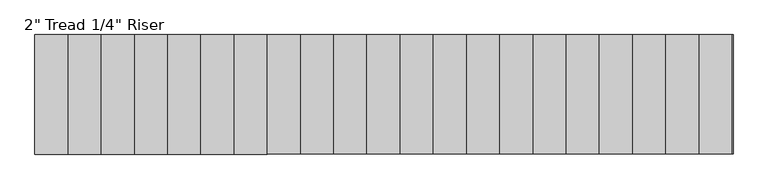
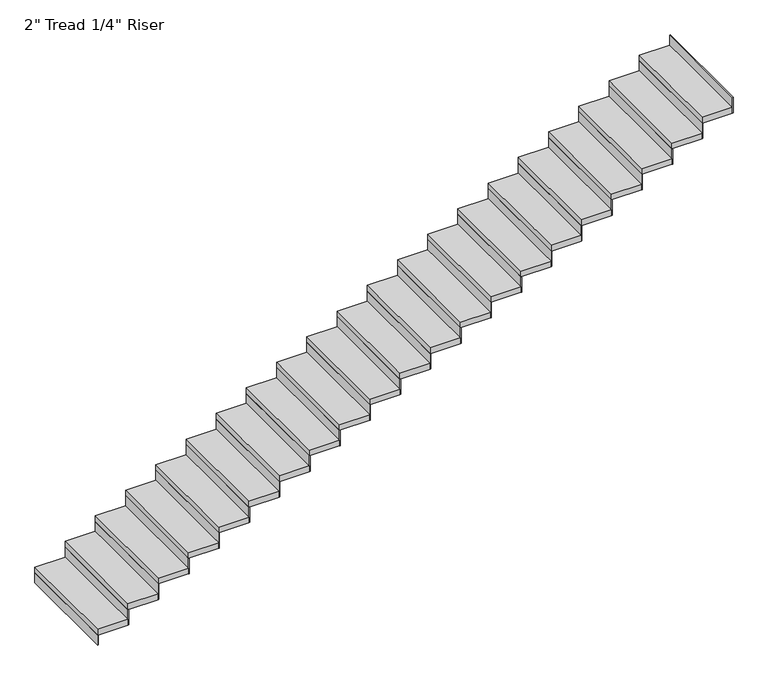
"""IFC4 building model written with IfcOpenShell, lengths in millimetres: stair flight geometry."""

from ifc_helpers import new_model, si_unit, frame, origin, origin_with_axes, place, context, project, spatial, polyline, outline, extrude, source, transform, mapped, element, save


def stair_flight_032d6450(model_context):
    return source(origin(), model_context, "Body", "SweptSolid", [
        extrude(outline(polyline([(10185.2072927, -35593.481782), (10178.8572927, -35593.481782), (10178.8572927, -34679.081782), (10185.2072927, -34679.081782), (10185.2072927, -35593.481782)])), origin_with_axes(), (0.0, 0.0, 1.0), 87.7454545),
        extrude(outline(polyline([(10432.8572927, -34679.081782), (10432.8572927, -35593.481782), (10178.8572927, -35593.481782), (10178.8572927, -34679.081782), (10432.8572927, -34679.081782)])), frame((0.0, 0.0, 87.7454545), z_axis=(0.0, 0.0, 1.0), x_axis=(1.0, 0.0, 0.0)), (0.0, 0.0, 1.0), 50.8),
        extrude(outline(polyline([(10439.2072927, -35593.481782), (10432.8572927, -35593.481782), (10432.8572927, -34679.081782), (10439.2072927, -34679.081782), (10439.2072927, -35593.481782)])), frame((0.0, 0.0, 87.7454545), z_axis=(0.0, 0.0, 1.0), x_axis=(1.0, 0.0, 0.0)), (0.0, 0.0, 1.0), 138.5454545),
        extrude(outline(polyline([(10686.8572927, -34679.081782), (10686.8572927, -35593.481782), (10432.8572927, -35593.481782), (10432.8572927, -34679.081782), (10686.8572927, -34679.081782)])), frame((0.0, 0.0, 226.2909091), z_axis=(0.0, 0.0, 1.0), x_axis=(1.0, 0.0, 0.0)), (0.0, 0.0, 1.0), 50.8),
        extrude(outline(polyline([(10693.2072927, -35593.481782), (10686.8572927, -35593.481782), (10686.8572927, -34679.081782), (10693.2072927, -34679.081782), (10693.2072927, -35593.481782)])), frame((0.0, 0.0, 226.2909091), z_axis=(0.0, 0.0, 1.0), x_axis=(1.0, 0.0, 0.0)), (0.0, 0.0, 1.0), 138.5454545),
        extrude(outline(polyline([(10940.8572927, -34679.081782), (10940.8572927, -35593.481782), (10686.8572927, -35593.481782), (10686.8572927, -34679.081782), (10940.8572927, -34679.081782)])), frame((0.0, 0.0, 364.8363636), z_axis=(0.0, 0.0, 1.0), x_axis=(1.0, 0.0, 0.0)), (0.0, 0.0, 1.0), 50.8),
        extrude(outline(polyline([(10947.2072927, -35593.481782), (10940.8572927, -35593.481782), (10940.8572927, -34679.081782), (10947.2072927, -34679.081782), (10947.2072927, -35593.481782)])), frame((0.0, 0.0, 364.8363636), z_axis=(0.0, 0.0, 1.0), x_axis=(1.0, 0.0, 0.0)), (0.0, 0.0, 1.0), 138.5454545),
        extrude(outline(polyline([(11194.8572927, -34679.081782), (11194.8572927, -35593.481782), (10940.8572927, -35593.481782), (10940.8572927, -34679.081782), (11194.8572927, -34679.081782)])), frame((0.0, 0.0, 503.3818182), z_axis=(0.0, 0.0, 1.0), x_axis=(1.0, 0.0, 0.0)), (0.0, 0.0, 1.0), 50.8),
        extrude(outline(polyline([(11201.2072927, -35593.481782), (11194.8572927, -35593.481782), (11194.8572927, -34679.081782), (11201.2072927, -34679.081782), (11201.2072927, -35593.481782)])), frame((0.0, 0.0, 503.3818182), z_axis=(0.0, 0.0, 1.0), x_axis=(1.0, 0.0, 0.0)), (0.0, 0.0, 1.0), 138.5454545),
        extrude(outline(polyline([(11448.8572927, -34679.081782), (11448.8572927, -35593.481782), (11194.8572927, -35593.481782), (11194.8572927, -34679.081782), (11448.8572927, -34679.081782)])), frame((0.0, 0.0, 641.9272727), z_axis=(0.0, 0.0, 1.0), x_axis=(1.0, 0.0, 0.0)), (0.0, 0.0, 1.0), 50.8),
        extrude(outline(polyline([(11455.2072927, -35593.481782), (11448.8572927, -35593.481782), (11448.8572927, -34679.081782), (11455.2072927, -34679.081782), (11455.2072927, -35593.481782)])), frame((0.0, 0.0, 641.9272727), z_axis=(0.0, 0.0, 1.0), x_axis=(1.0, 0.0, 0.0)), (0.0, 0.0, 1.0), 138.5454545),
        extrude(outline(polyline([(11702.8572927, -34679.081782), (11702.8572927, -35593.481782), (11448.8572927, -35593.481782), (11448.8572927, -34679.081782), (11702.8572927, -34679.081782)])), frame((0.0, 0.0, 780.4727273), z_axis=(0.0, 0.0, 1.0), x_axis=(1.0, 0.0, 0.0)), (0.0, 0.0, 1.0), 50.8),
        extrude(outline(polyline([(11709.2072927, -35593.481782), (11702.8572927, -35593.481782), (11702.8572927, -34679.081782), (11709.2072927, -34679.081782), (11709.2072927, -35593.481782)])), frame((0.0, 0.0, 780.4727273), z_axis=(0.0, 0.0, 1.0), x_axis=(1.0, 0.0, 0.0)), (0.0, 0.0, 1.0), 138.5454545),
        extrude(outline(polyline([(11956.8572927, -34679.081782), (11956.8572927, -35593.481782), (11702.8572927, -35593.481782), (11702.8572927, -34679.081782), (11956.8572927, -34679.081782)])), frame((0.0, 0.0, 919.0181818), z_axis=(0.0, 0.0, 1.0), x_axis=(1.0, 0.0, 0.0)), (0.0, 0.0, 1.0), 50.8),
        extrude(outline(polyline([(11963.2072927, -35593.481782), (11956.8572927, -35593.481782), (11956.8572927, -34679.081782), (11963.2072927, -34679.081782), (11963.2072927, -35593.481782)])), frame((0.0, 0.0, 919.0181818), z_axis=(0.0, 0.0, 1.0), x_axis=(1.0, 0.0, 0.0)), (0.0, 0.0, 1.0), 138.5454545),
        extrude(outline(polyline([(12210.8572927, -34679.081782), (12210.8572927, -35593.481782), (11956.8572927, -35593.481782), (11956.8572927, -34679.081782), (12210.8572927, -34679.081782)])), frame((0.0, 0.0, 1057.5636364), z_axis=(0.0, 0.0, 1.0), x_axis=(1.0, 0.0, 0.0)), (0.0, 0.0, 1.0), 50.8),
        extrude(outline(polyline([(12217.2072927, -35593.481782), (12210.8572927, -35593.481782), (12210.8572927, -34679.081782), (12217.2072927, -34679.081782), (12217.2072927, -35593.481782)])), frame((0.0, 0.0, 1057.5636364), z_axis=(0.0, 0.0, 1.0), x_axis=(1.0, 0.0, 0.0)), (0.0, 0.0, 1.0), 138.5454545),
        extrude(outline(polyline([(12464.8572927, -34679.081782), (12464.8572927, -35593.481782), (12210.8572927, -35593.481782), (12210.8572927, -34679.081782), (12464.8572927, -34679.081782)])), frame((0.0, 0.0, 1196.1090909), z_axis=(0.0, 0.0, 1.0), x_axis=(1.0, 0.0, 0.0)), (0.0, 0.0, 1.0), 50.8),
        extrude(outline(polyline([(12471.2072927, -35593.481782), (12464.8572927, -35593.481782), (12464.8572927, -34679.081782), (12471.2072927, -34679.081782), (12471.2072927, -35593.481782)])), frame((0.0, 0.0, 1196.1090909), z_axis=(0.0, 0.0, 1.0), x_axis=(1.0, 0.0, 0.0)), (0.0, 0.0, 1.0), 138.5454545),
        extrude(outline(polyline([(12718.8572927, -34679.081782), (12718.8572927, -35593.481782), (12464.8572927, -35593.481782), (12464.8572927, -34679.081782), (12718.8572927, -34679.081782)])), frame((0.0, 0.0, 1334.6545455), z_axis=(0.0, 0.0, 1.0), x_axis=(1.0, 0.0, 0.0)), (0.0, 0.0, 1.0), 50.8),
        extrude(outline(polyline([(12725.2072927, -35593.481782), (12718.8572927, -35593.481782), (12718.8572927, -34679.081782), (12725.2072927, -34679.081782), (12725.2072927, -35593.481782)])), frame((0.0, 0.0, 1334.6545455), z_axis=(0.0, 0.0, 1.0), x_axis=(1.0, 0.0, 0.0)), (0.0, 0.0, 1.0), 138.5454545),
        extrude(outline(polyline([(12972.8572927, -34679.081782), (12972.8572927, -35593.481782), (12718.8572927, -35593.481782), (12718.8572927, -34679.081782), (12972.8572927, -34679.081782)])), frame((0.0, 0.0, 1473.2), z_axis=(0.0, 0.0, 1.0), x_axis=(1.0, 0.0, 0.0)), (0.0, 0.0, 1.0), 50.8),
        extrude(outline(polyline([(12979.2072927, -35593.481782), (12972.8572927, -35593.481782), (12972.8572927, -34679.081782), (12979.2072927, -34679.081782), (12979.2072927, -35593.481782)])), frame((0.0, 0.0, 1473.2), z_axis=(0.0, 0.0, 1.0), x_axis=(1.0, 0.0, 0.0)), (0.0, 0.0, 1.0), 138.5454545),
        extrude(outline(polyline([(13226.8572927, -34679.081782), (13226.8572927, -35593.481782), (12972.8572927, -35593.481782), (12972.8572927, -34679.081782), (13226.8572927, -34679.081782)])), frame((0.0, 0.0, 1611.7454545), z_axis=(0.0, 0.0, 1.0), x_axis=(1.0, 0.0, 0.0)), (0.0, 0.0, 1.0), 50.8),
        extrude(outline(polyline([(13233.2072927, -35593.481782), (13226.8572927, -35593.481782), (13226.8572927, -34679.081782), (13233.2072927, -34679.081782), (13233.2072927, -35593.481782)])), frame((0.0, 0.0, 1611.7454545), z_axis=(0.0, 0.0, 1.0), x_axis=(1.0, 0.0, 0.0)), (0.0, 0.0, 1.0), 138.5454545),
        extrude(outline(polyline([(13480.8572927, -34679.081782), (13480.8572927, -35593.481782), (13226.8572927, -35593.481782), (13226.8572927, -34679.081782), (13480.8572927, -34679.081782)])), frame((0.0, 0.0, 1750.2909091), z_axis=(0.0, 0.0, 1.0), x_axis=(1.0, 0.0, 0.0)), (0.0, 0.0, 1.0), 50.8),
        extrude(outline(polyline([(13487.2072927, -35593.481782), (13480.8572927, -35593.481782), (13480.8572927, -34679.081782), (13487.2072927, -34679.081782), (13487.2072927, -35593.481782)])), frame((0.0, 0.0, 1750.2909091), z_axis=(0.0, 0.0, 1.0), x_axis=(1.0, 0.0, 0.0)), (0.0, 0.0, 1.0), 138.5454545),
        extrude(outline(polyline([(13734.8572927, -34679.081782), (13734.8572927, -35593.481782), (13480.8572927, -35593.481782), (13480.8572927, -34679.081782), (13734.8572927, -34679.081782)])), frame((0.0, 0.0, 1888.8363636), z_axis=(0.0, 0.0, 1.0), x_axis=(1.0, 0.0, 0.0)), (0.0, 0.0, 1.0), 50.8),
        extrude(outline(polyline([(13741.2072927, -35593.481782), (13734.8572927, -35593.481782), (13734.8572927, -34679.081782), (13741.2072927, -34679.081782), (13741.2072927, -35593.481782)])), frame((0.0, 0.0, 1888.8363636), z_axis=(0.0, 0.0, 1.0), x_axis=(1.0, 0.0, 0.0)), (0.0, 0.0, 1.0), 138.5454545),
        extrude(outline(polyline([(13988.8572927, -34679.081782), (13988.8572927, -35593.481782), (13734.8572927, -35593.481782), (13734.8572927, -34679.081782), (13988.8572927, -34679.081782)])), frame((0.0, 0.0, 2027.3818182), z_axis=(0.0, 0.0, 1.0), x_axis=(1.0, 0.0, 0.0)), (0.0, 0.0, 1.0), 50.8),
        extrude(outline(polyline([(13995.2072927, -35593.481782), (13988.8572927, -35593.481782), (13988.8572927, -34679.081782), (13995.2072927, -34679.081782), (13995.2072927, -35593.481782)])), frame((0.0, 0.0, 2027.3818182), z_axis=(0.0, 0.0, 1.0), x_axis=(1.0, 0.0, 0.0)), (0.0, 0.0, 1.0), 138.5454545),
        extrude(outline(polyline([(14242.8572927, -34679.081782), (14242.8572927, -35593.481782), (13988.8572927, -35593.481782), (13988.8572927, -34679.081782), (14242.8572927, -34679.081782)])), frame((0.0, 0.0, 2165.9272727), z_axis=(0.0, 0.0, 1.0), x_axis=(1.0, 0.0, 0.0)), (0.0, 0.0, 1.0), 50.8),
        extrude(outline(polyline([(14249.2072927, -35593.481782), (14242.8572927, -35593.481782), (14242.8572927, -34679.081782), (14249.2072927, -34679.081782), (14249.2072927, -35593.481782)])), frame((0.0, 0.0, 2165.9272727), z_axis=(0.0, 0.0, 1.0), x_axis=(1.0, 0.0, 0.0)), (0.0, 0.0, 1.0), 138.5454545),
        extrude(outline(polyline([(14496.8572927, -34679.081782), (14496.8572927, -35593.481782), (14242.8572927, -35593.481782), (14242.8572927, -34679.081782), (14496.8572927, -34679.081782)])), frame((0.0, 0.0, 2304.4727273), z_axis=(0.0, 0.0, 1.0), x_axis=(1.0, 0.0, 0.0)), (0.0, 0.0, 1.0), 50.8),
        extrude(outline(polyline([(14503.2072927, -35593.481782), (14496.8572927, -35593.481782), (14496.8572927, -34679.081782), (14503.2072927, -34679.081782), (14503.2072927, -35593.481782)])), frame((0.0, 0.0, 2304.4727273), z_axis=(0.0, 0.0, 1.0), x_axis=(1.0, 0.0, 0.0)), (0.0, 0.0, 1.0), 138.5454545),
        extrude(outline(polyline([(14750.8572927, -34679.081782), (14750.8572927, -35593.481782), (14496.8572927, -35593.481782), (14496.8572927, -34679.081782), (14750.8572927, -34679.081782)])), frame((0.0, 0.0, 2443.0181818), z_axis=(0.0, 0.0, 1.0), x_axis=(1.0, 0.0, 0.0)), (0.0, 0.0, 1.0), 50.8),
        extrude(outline(polyline([(14757.2072927, -35593.481782), (14750.8572927, -35593.481782), (14750.8572927, -34679.081782), (14757.2072927, -34679.081782), (14757.2072927, -35593.481782)])), frame((0.0, 0.0, 2443.0181818), z_axis=(0.0, 0.0, 1.0), x_axis=(1.0, 0.0, 0.0)), (0.0, 0.0, 1.0), 138.5454545),
        extrude(outline(polyline([(15004.8572927, -34679.081782), (15004.8572927, -35593.481782), (14750.8572927, -35593.481782), (14750.8572927, -34679.081782), (15004.8572927, -34679.081782)])), frame((0.0, 0.0, 2581.5636364), z_axis=(0.0, 0.0, 1.0), x_axis=(1.0, 0.0, 0.0)), (0.0, 0.0, 1.0), 50.8),
        extrude(outline(polyline([(15011.2072927, -35593.481782), (15004.8572927, -35593.481782), (15004.8572927, -34679.081782), (15011.2072927, -34679.081782), (15011.2072927, -35593.481782)])), frame((0.0, 0.0, 2581.5636364), z_axis=(0.0, 0.0, 1.0), x_axis=(1.0, 0.0, 0.0)), (0.0, 0.0, 1.0), 138.5454545),
        extrude(outline(polyline([(15258.8572927, -34679.081782), (15258.8572927, -35593.481782), (15004.8572927, -35593.481782), (15004.8572927, -34679.081782), (15258.8572927, -34679.081782)])), frame((0.0, 0.0, 2720.1090909), z_axis=(0.0, 0.0, 1.0), x_axis=(1.0, 0.0, 0.0)), (0.0, 0.0, 1.0), 50.8),
        extrude(outline(polyline([(15265.2072927, -35593.481782), (15258.8572927, -35593.481782), (15258.8572927, -34679.081782), (15265.2072927, -34679.081782), (15265.2072927, -35593.481782)])), frame((0.0, 0.0, 2720.1090909), z_axis=(0.0, 0.0, 1.0), x_axis=(1.0, 0.0, 0.0)), (0.0, 0.0, 1.0), 138.5454545),
        extrude(outline(polyline([(15519.2072927, -35593.481782), (15512.8572927, -35593.481782), (15512.8572927, -34679.081782), (15519.2072927, -34679.081782), (15519.2072927, -35593.481782)])), frame((0.0, 0.0, 2858.6545455), z_axis=(0.0, 0.0, 1.0), x_axis=(1.0, 0.0, 0.0)), (0.0, 0.0, 1.0), 138.5454545),
        extrude(outline(polyline([(15512.8572927, -34679.081782), (15512.8572927, -35593.481782), (15258.8572927, -35593.481782), (15258.8572927, -34679.081782), (15512.8572927, -34679.081782)])), frame((0.0, 0.0, 2858.6545455), z_axis=(0.0, 0.0, 1.0), x_axis=(1.0, 0.0, 0.0)), (0.0, 0.0, 1.0), 50.8),
    ])


if __name__ == "__main__":
    model = new_model("IFC4")
    model_context = context("Model", 3, world=origin())
    ifc_project = project(units=[si_unit("LENGTHUNIT", "METRE", prefix="MILLI")], contexts=[model_context])
    site = spatial("IfcSite", under=ifc_project)
    building = spatial("IfcBuilding", under=site)
    placement = place(None, origin())
    stair_flight_shape = stair_flight_032d6450(model_context)
    element("IfcStairFlight", 1, ObjectType="2\" Tread 1/4\" Riser", at=placement, inside=building, context=model_context, shape_type="MappedRepresentation", body=[
        mapped(stair_flight_shape, transform((0.0, 0.0, 0.0), x_axis=(1.0, 0.0, 0.0), y_axis=(0.0, 1.0, 0.0), z_axis=(0.0, 0.0, 1.0))),
    ])
    save(model, "model.ifc")
